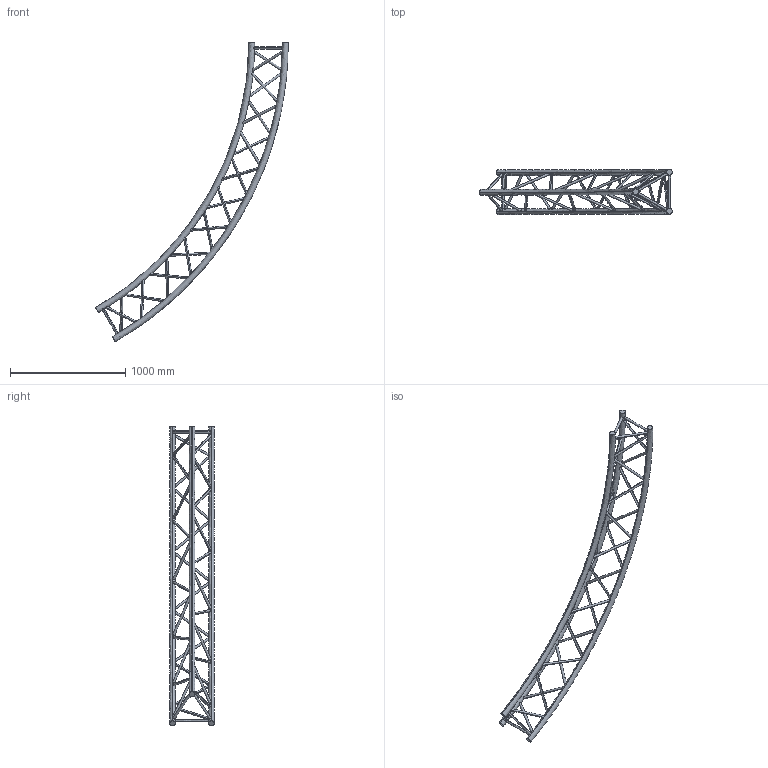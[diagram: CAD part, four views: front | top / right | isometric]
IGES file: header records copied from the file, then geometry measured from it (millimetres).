
Start section: SolidWorks IGES file using analytic representation for surfaces
Global section: file name: K:\BIBLIO\asd_biblio\SX390\Cercles\SXC39PI\SXC39600PI\SXC39600PI.IGS; native system: SolidWorks 2009; preprocessor: SolidWorks 2009; author: des3; date: 091021.133921; units: millimetre
Bounding box: 1670.93 x 387 x 2598.08 mm (x, y, z)
Surface area: 2264363.1 mm2 (no closed solid volume)
Topology: 0 solids, 0 shells, 90 faces, 6471 edges, 6471 vertices
Faces by surface type: revolution 78, bspline 12
